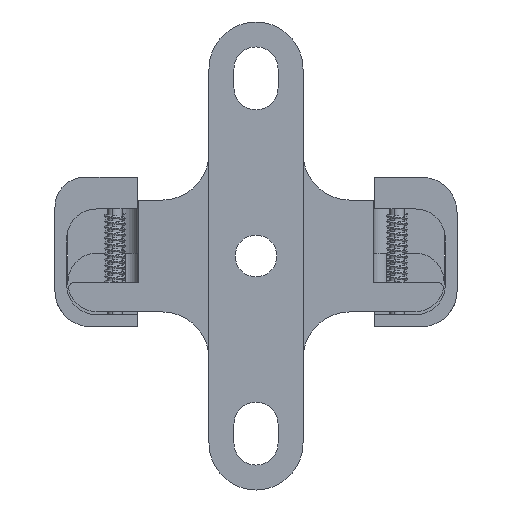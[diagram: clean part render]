
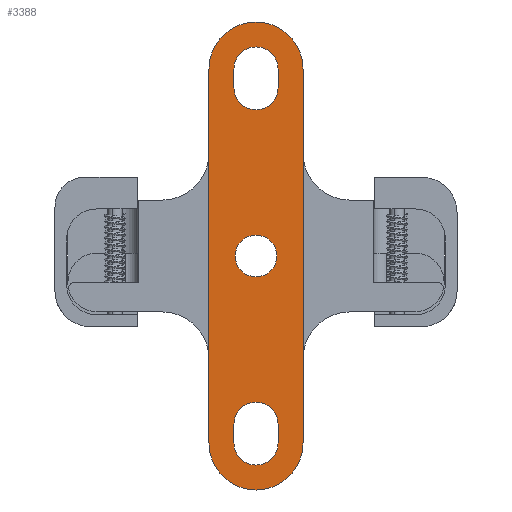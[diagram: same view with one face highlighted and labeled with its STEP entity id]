
A CAD part, front view. The second image highlights one B-rep face of the part: STEP entity #3388.
In plain terms, the highlighted planar face has unit normal (0, -1, 0).
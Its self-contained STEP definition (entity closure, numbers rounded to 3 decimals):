
#1042=CARTESIAN_POINT('',(0.,0.,0.));
#1043=DIRECTION('',(0.,-1.,0.));
#1044=DIRECTION('',(-1.,0.,0.));
#1045=AXIS2_PLACEMENT_3D('',#1042,#1043,#1044);
#1047=CARTESIAN_POINT('',(0.,0.,0.));
#1048=DIRECTION('',(0.,-1.,0.));
#1049=DIRECTION('',(1.,0.,0.));
#1050=AXIS2_PLACEMENT_3D('',#1047,#1048,#1049);
#1052=CARTESIAN_POINT('',(0.,0.,20.193));
#1053=DIRECTION('',(0.,-1.,0.));
#1054=DIRECTION('',(1.,0.,0.));
#1055=AXIS2_PLACEMENT_3D('',#1052,#1053,#1054);
#1057=DIRECTION('',(0.,0.,1.));
#1058=VECTOR('',#1057,40.386);
#1059=CARTESIAN_POINT('',(5.08,0.,-20.193));
#1060=LINE('',#1059,#1058);
#1061=CARTESIAN_POINT('',(0.,0.,-20.193));
#1062=DIRECTION('',(0.,-1.,0.));
#1063=DIRECTION('',(0.,0.,-1.));
#1064=AXIS2_PLACEMENT_3D('',#1061,#1062,#1063);
#1066=CARTESIAN_POINT('',(0.,0.,-20.193));
#1067=DIRECTION('',(0.,-1.,0.));
#1068=DIRECTION('',(-1.,0.,0.));
#1069=AXIS2_PLACEMENT_3D('',#1066,#1067,#1068);
#1071=CARTESIAN_POINT('',(0.,0.,-20.193));
#1072=DIRECTION('',(0.,-1.,0.));
#1073=DIRECTION('',(-1.,0.,0.));
#1074=AXIS2_PLACEMENT_3D('',#1071,#1072,#1073);
#1076=CARTESIAN_POINT('',(0.,0.,-18.161));
#1077=DIRECTION('',(0.,1.,0.));
#1078=DIRECTION('',(0.,0.,1.));
#1079=AXIS2_PLACEMENT_3D('',#1076,#1077,#1078);
#1081=CARTESIAN_POINT('',(0.,0.,-18.161));
#1082=DIRECTION('',(0.,1.,0.));
#1083=DIRECTION('',(-1.,0.,0.));
#1084=AXIS2_PLACEMENT_3D('',#1081,#1082,#1083);
#1086=CARTESIAN_POINT('',(0.,0.,20.193));
#1087=DIRECTION('',(0.,1.,0.));
#1088=DIRECTION('',(0.,0.,1.));
#1089=AXIS2_PLACEMENT_3D('',#1086,#1087,#1088);
#1091=CARTESIAN_POINT('',(0.,0.,20.193));
#1092=DIRECTION('',(0.,1.,0.));
#1093=DIRECTION('',(-1.,0.,0.));
#1094=AXIS2_PLACEMENT_3D('',#1091,#1092,#1093);
#1096=CARTESIAN_POINT('',(0.,0.,18.161));
#1097=DIRECTION('',(0.,1.,0.));
#1098=DIRECTION('',(1.,0.,0.));
#1099=AXIS2_PLACEMENT_3D('',#1096,#1097,#1098);
#1109=DIRECTION('',(0.,0.,1.));
#1110=VECTOR('',#1109,40.386);
#1111=CARTESIAN_POINT('',(-5.08,0.,-20.193));
#1112=LINE('',#1111,#1110);
#1673=DIRECTION('',(0.,0.,-1.));
#1674=VECTOR('',#1673,2.032);
#1675=CARTESIAN_POINT('',(-2.388,0.,20.193));
#1676=LINE('',#1675,#1674);
#1693=DIRECTION('',(0.,0.,1.));
#1694=VECTOR('',#1693,2.032);
#1695=CARTESIAN_POINT('',(2.388,0.,18.161));
#1696=LINE('',#1695,#1694);
#2316=DIRECTION('',(0.,0.,1.));
#2317=VECTOR('',#2316,2.032);
#2318=CARTESIAN_POINT('',(2.388,0.,-20.193));
#2319=LINE('',#2318,#2317);
#2328=DIRECTION('',(0.,0.,-1.));
#2329=VECTOR('',#2328,2.032);
#2330=CARTESIAN_POINT('',(-2.388,0.,-18.161));
#2331=LINE('',#2330,#2329);
#2655=CARTESIAN_POINT('',(0.,0.,-25.273));
#2656=CARTESIAN_POINT('',(5.08,0.,-20.193));
#2657=VERTEX_POINT('',#2655);
#2658=VERTEX_POINT('',#2656);
#2669=CARTESIAN_POINT('',(-2.388,0.,20.193));
#2670=CARTESIAN_POINT('',(-2.388,0.,18.161));
#2671=VERTEX_POINT('',#2669);
#2672=VERTEX_POINT('',#2670);
#2750=CARTESIAN_POINT('',(-5.08,0.,20.193));
#2752=VERTEX_POINT('',#2750);
#2793=CARTESIAN_POINT('',(2.388,0.,18.161));
#2795=VERTEX_POINT('',#2793);
#2798=CARTESIAN_POINT('',(-2.388,0.,-20.193));
#2800=VERTEX_POINT('',#2798);
#2814=CARTESIAN_POINT('',(2.388,0.,20.193));
#2816=VERTEX_POINT('',#2814);
#2877=CARTESIAN_POINT('',(-2.388,0.,-18.161));
#2878=CARTESIAN_POINT('',(0.,0.,-15.773));
#2879=VERTEX_POINT('',#2877);
#2880=VERTEX_POINT('',#2878);
#2900=CARTESIAN_POINT('',(2.388,0.,-20.193));
#2901=CARTESIAN_POINT('',(2.388,0.,-18.161));
#2902=VERTEX_POINT('',#2900);
#2903=VERTEX_POINT('',#2901);
#2930=CARTESIAN_POINT('',(5.08,0.,20.193));
#2931=VERTEX_POINT('',#2930);
#2932=CARTESIAN_POINT('',(0.,0.,22.581));
#2933=VERTEX_POINT('',#2932);
#3011=CARTESIAN_POINT('',(-5.08,0.,-20.193));
#3012=VERTEX_POINT('',#3011);
#3135=CARTESIAN_POINT('',(-2.25,0.,0.));
#3136=CARTESIAN_POINT('',(2.25,0.,0.));
#3137=VERTEX_POINT('',#3135);
#3138=VERTEX_POINT('',#3136);
#3343=CARTESIAN_POINT('',(0.,0.,0.));
#3344=DIRECTION('',(0.,1.,0.));
#3345=DIRECTION('',(0.,0.,1.));
#3346=AXIS2_PLACEMENT_3D('',#3343,#3344,#3345);
#3347=PLANE('',#3346);
#3349=ORIENTED_EDGE('',*,*,#3348,.T.);
#3351=ORIENTED_EDGE('',*,*,#3350,.F.);
#3353=ORIENTED_EDGE('',*,*,#3352,.F.);
#3355=ORIENTED_EDGE('',*,*,#3354,.F.);
#3357=ORIENTED_EDGE('',*,*,#3356,.F.);
#3358=EDGE_LOOP('',(#3349,#3351,#3353,#3355,#3357));
#3359=FACE_OUTER_BOUND('',#3358,.F.);
#3360=ORIENTED_EDGE('',*,*,#3323,.T.);
#3361=ORIENTED_EDGE('',*,*,#3337,.T.);
#3362=EDGE_LOOP('',(#3360,#3361));
#3363=FACE_BOUND('',#3362,.F.);
#3365=ORIENTED_EDGE('',*,*,#3364,.T.);
#3367=ORIENTED_EDGE('',*,*,#3366,.T.);
#3369=ORIENTED_EDGE('',*,*,#3368,.T.);
#3371=ORIENTED_EDGE('',*,*,#3370,.F.);
#3373=ORIENTED_EDGE('',*,*,#3372,.F.);
#3374=EDGE_LOOP('',(#3365,#3367,#3369,#3371,#3373));
#3375=FACE_BOUND('',#3374,.F.);
#3377=ORIENTED_EDGE('',*,*,#3376,.T.);
#3379=ORIENTED_EDGE('',*,*,#3378,.F.);
#3381=ORIENTED_EDGE('',*,*,#3380,.F.);
#3383=ORIENTED_EDGE('',*,*,#3382,.T.);
#3385=ORIENTED_EDGE('',*,*,#3384,.F.);
#3386=EDGE_LOOP('',(#3377,#3379,#3381,#3383,#3385));
#3387=FACE_BOUND('',#3386,.F.);
#3388=ADVANCED_FACE('',(#3359,#3363,#3375,#3387),#3347,.F.);
#1046=CIRCLE('',#1045,2.25);
#1051=CIRCLE('',#1050,2.25);
#1056=CIRCLE('',#1055,5.08);
#1065=CIRCLE('',#1064,5.08);
#1070=CIRCLE('',#1069,5.08);
#1075=CIRCLE('',#1074,2.388);
#1080=CIRCLE('',#1079,2.388);
#1085=CIRCLE('',#1084,2.388);
#1090=CIRCLE('',#1089,2.388);
#1095=CIRCLE('',#1094,2.388);
#1100=CIRCLE('',#1099,2.388);
#3323=EDGE_CURVE('',#3137,#3138,#1046,.T.);
#3337=EDGE_CURVE('',#3138,#3137,#1051,.T.);
#3348=EDGE_CURVE('',#3012,#2752,#1112,.T.);
#3350=EDGE_CURVE('',#2931,#2752,#1056,.T.);
#3352=EDGE_CURVE('',#2658,#2931,#1060,.T.);
#3354=EDGE_CURVE('',#2657,#2658,#1065,.T.);
#3356=EDGE_CURVE('',#3012,#2657,#1070,.T.);
#3364=EDGE_CURVE('',#2879,#2800,#2331,.T.);
#3366=EDGE_CURVE('',#2800,#2902,#1075,.T.);
#3368=EDGE_CURVE('',#2902,#2903,#2319,.T.);
#3370=EDGE_CURVE('',#2880,#2903,#1080,.T.);
#3372=EDGE_CURVE('',#2879,#2880,#1085,.T.);
#3376=EDGE_CURVE('',#2795,#2816,#1696,.T.);
#3378=EDGE_CURVE('',#2933,#2816,#1090,.T.);
#3380=EDGE_CURVE('',#2671,#2933,#1095,.T.);
#3382=EDGE_CURVE('',#2671,#2672,#1676,.T.);
#3384=EDGE_CURVE('',#2795,#2672,#1100,.T.);
